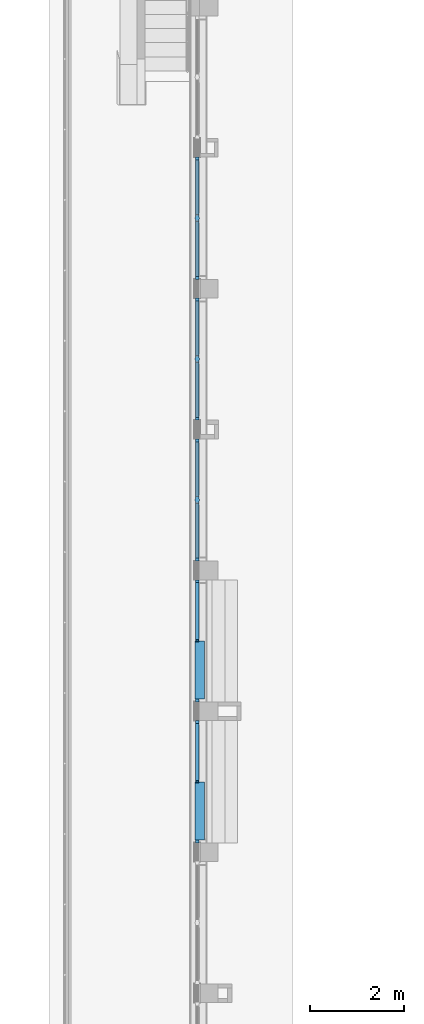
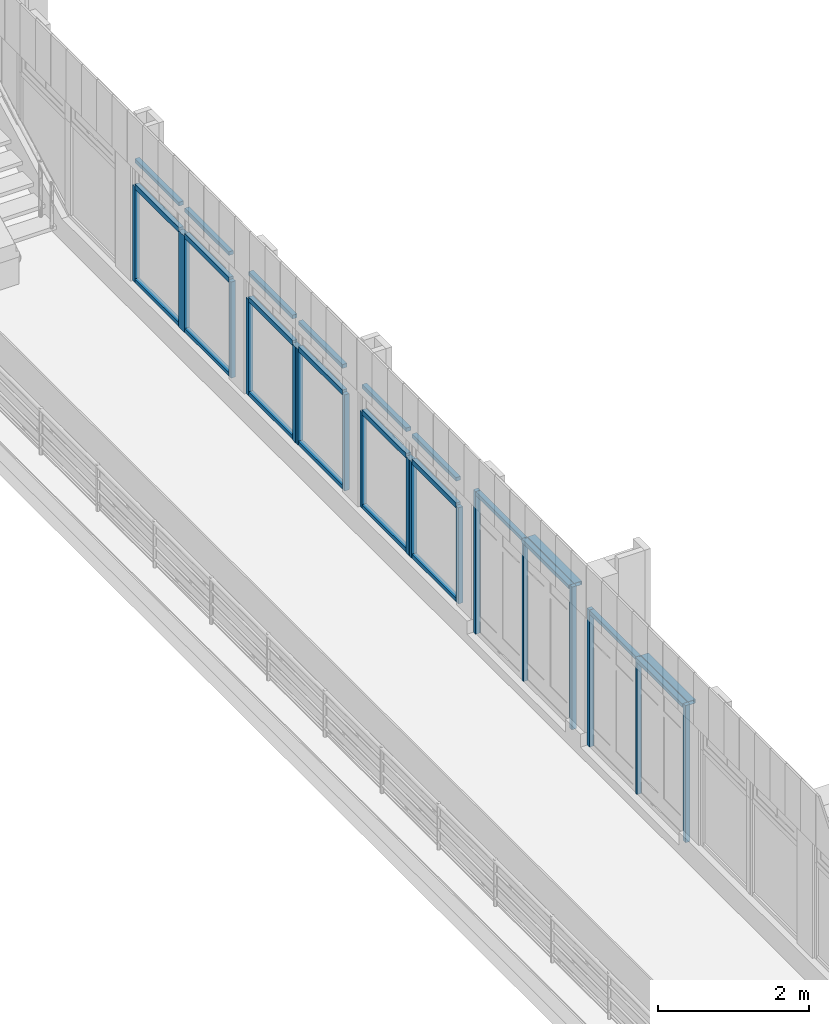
# One storey, part 3 of 16: 37 members, 5 elements without a shape of their own.
"""IFC2X3 building model written with IfcOpenShell, lengths in millimetres."""

from ifc_helpers import new_model, entity, si_unit, converted_unit, derived_unit, direction, frame, frame_2d, origin, place, context, subcontext, project, spatial, polyline, rectangle, outline, extrude, source, transform, mapped, material, type_object, type_shapes, element, aggregate, save


model = new_model("IFC2X3")

# Units and contexts
model_context = context("Model", 3, precision=0.01, world=origin(), true_north=direction((6.123031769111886e-17, 1.0)))
body_context = subcontext(model_context, "Body", "Model", "MODEL_VIEW")
ifc_project = project(units=[si_unit("LENGTHUNIT", "METRE", prefix="MILLI"), si_unit("AREAUNIT", "SQUARE_METRE"), si_unit("VOLUMEUNIT", "CUBIC_METRE"), converted_unit("PLANEANGLEUNIT", "DEGREE", entity("IfcPlaneAngleMeasure", 0.017453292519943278), si_unit("PLANEANGLEUNIT", "RADIAN"), dimensions=[0, 0, 0, 0, 0, 0, 0]), si_unit("MASSUNIT", "GRAM", prefix="KILO"), derived_unit("MASSDENSITYUNIT", [(si_unit("MASSUNIT", "GRAM", prefix="KILO"), 1), (si_unit("LENGTHUNIT", "METRE"), -3)]), derived_unit("IONCONCENTRATIONUNIT", [(si_unit("MASSUNIT", "GRAM", prefix="KILO"), 1), (si_unit("LENGTHUNIT", "METRE"), -3)]), derived_unit("MOMENTOFINERTIAUNIT", [(si_unit("LENGTHUNIT", "METRE"), 4)]), si_unit("TIMEUNIT", "SECOND"), si_unit("FREQUENCYUNIT", "HERTZ"), si_unit("THERMODYNAMICTEMPERATUREUNIT", "DEGREE_CELSIUS"), derived_unit("THERMALTRANSMITTANCEUNIT", [(si_unit("MASSUNIT", "GRAM", prefix="KILO"), 1), (si_unit("THERMODYNAMICTEMPERATUREUNIT", "KELVIN"), -1), (si_unit("TIMEUNIT", "SECOND"), -3)]), derived_unit("THERMALCONDUCTANCEUNIT", [(si_unit("MASSUNIT", "GRAM", prefix="KILO"), 1), (si_unit("THERMODYNAMICTEMPERATUREUNIT", "KELVIN"), -1), (si_unit("TIMEUNIT", "SECOND"), -3), (si_unit("LENGTHUNIT", "METRE"), 1)]), derived_unit("VOLUMETRICFLOWRATEUNIT", [(si_unit("LENGTHUNIT", "METRE", prefix="DECI"), 3), (si_unit("TIMEUNIT", "SECOND"), -1)]), derived_unit("MASSFLOWRATEUNIT", [(si_unit("MASSUNIT", "GRAM", prefix="KILO"), 1), (si_unit("TIMEUNIT", "SECOND"), -1)]), derived_unit("ROTATIONALFREQUENCYUNIT", [(si_unit("TIMEUNIT", "SECOND"), -1)]), si_unit("ELECTRICCURRENTUNIT", "AMPERE"), si_unit("ELECTRICVOLTAGEUNIT", "VOLT"), si_unit("POWERUNIT", "WATT"), si_unit("FORCEUNIT", "NEWTON", prefix="KILO"), si_unit("ILLUMINANCEUNIT", "LUX"), si_unit("LUMINOUSFLUXUNIT", "LUMEN"), si_unit("LUMINOUSINTENSITYUNIT", "CANDELA"), si_unit("ENERGYUNIT", "JOULE"), derived_unit("USERDEFINED", [(si_unit("MASSUNIT", "GRAM", prefix="KILO"), -1), (si_unit("LENGTHUNIT", "METRE"), -2), (si_unit("TIMEUNIT", "SECOND"), 3), (si_unit("LUMINOUSFLUXUNIT", "LUMEN"), 1)]), derived_unit("USERDEFINED", [(si_unit("MASSUNIT", "GRAM", prefix="KILO"), 1), (si_unit("TIMEUNIT", "SECOND"), -3), (si_unit("LENGTHUNIT", "METRE"), 3), (si_unit("ELECTRICCURRENTUNIT", "AMPERE"), -2)]), derived_unit("SOUNDPOWERUNIT", [(si_unit("MASSUNIT", "GRAM", prefix="KILO"), 1), (si_unit("TIMEUNIT", "SECOND"), -3), (si_unit("LENGTHUNIT", "METRE"), 2)]), derived_unit("SOUNDPRESSUREUNIT", [(si_unit("MASSUNIT", "GRAM", prefix="KILO"), 1), (si_unit("LENGTHUNIT", "METRE"), -1), (si_unit("TIMEUNIT", "SECOND"), -2)]), derived_unit("LINEARVELOCITYUNIT", [(si_unit("LENGTHUNIT", "METRE"), 1), (si_unit("TIMEUNIT", "SECOND"), -1)]), si_unit("PRESSUREUNIT", "PASCAL"), derived_unit("USERDEFINED", [(si_unit("MASSUNIT", "GRAM", prefix="KILO"), 1), (si_unit("LENGTHUNIT", "METRE"), -2), (si_unit("TIMEUNIT", "SECOND"), -2)]), derived_unit("LINEARFORCEUNIT", [(si_unit("MASSUNIT", "GRAM", prefix="KILO"), 1), (si_unit("TIMEUNIT", "SECOND"), -2)]), derived_unit("PLANARFORCEUNIT", [(si_unit("MASSUNIT", "GRAM", prefix="KILO"), 1), (si_unit("LENGTHUNIT", "METRE"), -1), (si_unit("TIMEUNIT", "SECOND"), -2)]), derived_unit("SPECIFICHEATCAPACITYUNIT", [(si_unit("THERMODYNAMICTEMPERATUREUNIT", "KELVIN"), -1), (si_unit("LENGTHUNIT", "METRE"), 2), (si_unit("TIMEUNIT", "SECOND"), -2)]), derived_unit("HEATFLUXDENSITYUNIT", [(si_unit("MASSUNIT", "GRAM", prefix="KILO"), 1), (si_unit("TIMEUNIT", "SECOND"), -3)]), derived_unit("HEATINGVALUEUNIT", [(si_unit("LENGTHUNIT", "METRE"), 2), (si_unit("TIMEUNIT", "SECOND"), -2)]), derived_unit("VAPORPERMEABILITYUNIT", [(si_unit("LENGTHUNIT", "METRE"), -1), (si_unit("TIMEUNIT", "SECOND"), 1)]), derived_unit("DYNAMICVISCOSITYUNIT", [(si_unit("MASSUNIT", "GRAM", prefix="KILO"), 1), (si_unit("TIMEUNIT", "SECOND"), -1), (si_unit("LENGTHUNIT", "METRE"), -1)]), derived_unit("THERMALEXPANSIONCOEFFICIENTUNIT", [(si_unit("THERMODYNAMICTEMPERATUREUNIT", "KELVIN"), -1)]), derived_unit("MODULUSOFELASTICITYUNIT", [(si_unit("MASSUNIT", "GRAM", prefix="KILO"), 1), (si_unit("LENGTHUNIT", "METRE"), -1), (si_unit("TIMEUNIT", "SECOND"), -2)]), derived_unit("ISOTHERMALMOISTURECAPACITYUNIT", [(si_unit("MASSUNIT", "GRAM", prefix="KILO"), -1), (si_unit("LENGTHUNIT", "METRE"), 3)]), derived_unit("MOISTUREDIFFUSIVITYUNIT", [(si_unit("TIMEUNIT", "SECOND"), -1), (si_unit("LENGTHUNIT", "METRE"), 2)]), derived_unit("MASSPERLENGTHUNIT", [(si_unit("MASSUNIT", "GRAM", prefix="KILO"), 1), (si_unit("LENGTHUNIT", "METRE"), -1)]), derived_unit("THERMALRESISTANCEUNIT", [(si_unit("MASSUNIT", "GRAM", prefix="KILO"), -1), (si_unit("TIMEUNIT", "SECOND"), 3), (si_unit("THERMODYNAMICTEMPERATUREUNIT", "KELVIN"), 1)]), derived_unit("ACCELERATIONUNIT", [(si_unit("LENGTHUNIT", "METRE"), 1), (si_unit("TIMEUNIT", "SECOND"), -2)]), derived_unit("ANGULARVELOCITYUNIT", [(si_unit("TIMEUNIT", "SECOND"), -1), (si_unit("PLANEANGLEUNIT", "RADIAN"), 1)]), derived_unit("LINEARSTIFFNESSUNIT", [(si_unit("MASSUNIT", "GRAM", prefix="KILO"), 1), (si_unit("TIMEUNIT", "SECOND"), -2)]), derived_unit("WARPINGCONSTANTUNIT", [(si_unit("LENGTHUNIT", "METRE"), 6)]), derived_unit("LINEARMOMENTUNIT", [(si_unit("MASSUNIT", "GRAM", prefix="KILO"), 1), (si_unit("LENGTHUNIT", "METRE"), 1), (si_unit("TIMEUNIT", "SECOND"), -2)]), derived_unit("TORQUEUNIT", [(si_unit("MASSUNIT", "GRAM", prefix="KILO"), 1), (si_unit("LENGTHUNIT", "METRE"), 2), (si_unit("TIMEUNIT", "SECOND"), -2)])], contexts=[model_context])

# Site, building, storey
site_placement = place(None, origin())
site = spatial("IfcSite", under=ifc_project, at=site_placement, Name="Default", CompositionType="ELEMENT")
building_placement = place(site_placement, origin())
building = spatial("IfcBuilding", under=site, at=building_placement, Name="Eesti Rahvusraamatukogu hoone renoveerimise projekteerimistööd", CompositionType="ELEMENT")
storey_placement = place(building_placement, frame((0.0, 0.0, 8250.000000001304)))
storey = spatial("IfcBuildingStorey", under=building, at=storey_placement, Name="3. korrus", CompositionType="ELEMENT", Elevation=8250.000000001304)

# Curtain wall, members
curtain_wall_type_1 = type_object("IfcCurtainWallType", Name="Curtain Wall:A-15", PredefinedType="NOTDEFINED")
curtain_wall_1_placement = place(storey_placement, frame((0.0, 0.0, -8250.000000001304)))
curtain_wall_1 = element("IfcCurtainWall", 1, at=curtain_wall_1_placement, inside=storey, type_object=curtain_wall_type_1, Name="Curtain Wall:A-15", ObjectType="Curtain Wall:A-15")
ifc_material = material(Name="LUMION_dark steel window frames")
member_type_1 = type_object("IfcMemberType", Name="Rectangular Mullion:NEW 60x70mm", PredefinedType="MULLION", material=ifc_material)
shared_shape_1 = source(origin(), body_context, "Body", "SweptSolid", [
    extrude(rectangle(XDim=60.0, YDim=70.0, at=frame_2d((0.0, -3.552713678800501e-15), x_axis=(1.0, 0.0))), frame((-30.0, 0.0, -2300.0), z_axis=(0.0, 0.0, 1.0), x_axis=(-1.0, 0.0, 0.0)), (0.0, 0.0, 1.0), 2300.000000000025),
])
type_shapes(member_type_1, [shared_shape_1])
member_1_placement = place(curtain_wall_1_placement, frame((-33635.0, 30190.0, 8640.000000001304), z_axis=(0.0, 0.0, -1.0), x_axis=(0.0, 1.0, 0.0)))
member_1 = element("IfcMember", 2, at=member_1_placement, type_object=member_type_1, material=ifc_material, Name="Rectangular Mullion:NEW 60x70mm", ObjectType="Rectangular Mullion:NEW 60x70mm", context=body_context, shape_type="MappedRepresentation", body=[
    mapped(shared_shape_1, transform((0.0, 0.0, 0.0), scale=1.0)),
])
member_type_2 = type_object("IfcMemberType", Name="Rectangular Mullion:NEW 60x70mm", PredefinedType="MULLION", material=ifc_material)
shared_shape_2 = source(origin(), body_context, "Body", "SweptSolid", [
    extrude(rectangle(XDim=60.0, YDim=70.0, at=frame_2d((0.0, 3.552713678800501e-15), x_axis=(1.0, 0.0))), frame((-30.0, 0.0, -2300.0), z_axis=(0.0, 0.0, 1.0), x_axis=(-1.0, 0.0, 0.0)), (0.0, 0.0, 1.0), 2300.000000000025),
])
type_shapes(member_type_2, [shared_shape_2])
member_2_placement = place(curtain_wall_1_placement, frame((-33635.0, 27590.0, 10940.000000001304), z_axis=(0.0, 0.0, 1.0), x_axis=(0.0, -1.0, 0.0)))
member_2 = element("IfcMember", 3, at=member_2_placement, type_object=member_type_2, material=ifc_material, Name="Rectangular Mullion:NEW 60x70mm", ObjectType="Rectangular Mullion:NEW 60x70mm", context=body_context, shape_type="MappedRepresentation", body=[
    mapped(shared_shape_2, transform((0.0, 0.0, 0.0), scale=1.0)),
])
member_type_3 = type_object("IfcMemberType", Name="Rectangular Mullion:NEW 60x70mm", PredefinedType="MULLION", material=ifc_material)
shared_shape_3 = source(origin(), body_context, "Body", "SweptSolid", [
    extrude(rectangle(XDim=60.0, YDim=70.0, at=frame_2d((0.0, -3.552713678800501e-15), x_axis=(1.0, 0.0))), frame((-30.0, 0.0, -1240.0), z_axis=(0.0, 0.0, 1.0), x_axis=(-1.0, 0.0, 0.0)), (0.0, 0.0, 1.0), 1239.9999999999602),
])
type_shapes(member_type_3, [shared_shape_3])
member_3_placement = place(curtain_wall_1_placement, frame((-33635.0, 30130.0, 10940.000000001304), z_axis=(0.0, 1.0, 0.0), x_axis=(0.0, 0.0, 1.0)))
member_3 = element("IfcMember", 4, at=member_3_placement, type_object=member_type_3, material=ifc_material, Name="Rectangular Mullion:NEW 60x70mm", ObjectType="Rectangular Mullion:NEW 60x70mm", context=body_context, shape_type="MappedRepresentation", body=[
    mapped(shared_shape_3, transform((0.0, 0.0, 0.0), scale=1.0)),
])

# Curtain wall, member
curtain_wall_2_placement = place(storey_placement, frame((0.0, 0.0, -8250.000000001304)))
curtain_wall_2 = element("IfcCurtainWall", 5, at=curtain_wall_2_placement, inside=storey, type_object=curtain_wall_type_1, Name="Curtain Wall:A-15", ObjectType="Curtain Wall:A-15")
member_4_placement = place(curtain_wall_2_placement, frame((-33635.0, 27130.0, 10850.000000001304), z_axis=(0.0, 1.0, 0.0), x_axis=(0.0, 0.0, 1.0)))
member_4 = element("IfcMember", 6, at=member_4_placement, type_object=member_type_3, material=ifc_material, Name="Rectangular Mullion:NEW 60x70mm", ObjectType="Rectangular Mullion:NEW 60x70mm", context=body_context, shape_type="MappedRepresentation", body=[
    mapped(shared_shape_3, transform((0.0, 0.0, 0.0), scale=1.0)),
])

# Member
member_type_4 = type_object("IfcMemberType", Name="Rectangular Mullion:NEW 40x70mm", PredefinedType="MULLION", material=ifc_material)
shared_shape_4 = source(origin(), body_context, "Body", "SweptSolid", [
    extrude(rectangle(XDim=40.0, YDim=70.0, at=frame_2d((0.0, 3.552713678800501e-15), x_axis=(1.0, 0.0))), frame((0.0, 0.0, -2240.0), z_axis=(0.0, 0.0, 1.0), x_axis=(-1.0, 0.0, 0.0)), (0.0, 0.0, 1.0), 2240.000000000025),
])
type_shapes(member_type_4, [shared_shape_4])
member_5_placement = place(curtain_wall_1_placement, frame((-33635.0, 28890.0, 8640.000000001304), z_axis=(0.0, 0.0, -1.0), x_axis=(0.0, 1.0, 0.0)))
member_5 = element("IfcMember", 7, at=member_5_placement, type_object=member_type_4, material=ifc_material, Name="Rectangular Mullion:NEW 40x70mm", ObjectType="Rectangular Mullion:NEW 40x70mm", context=body_context, shape_type="MappedRepresentation", body=[
    mapped(shared_shape_4, transform((0.0, 0.0, 0.0), scale=1.0)),
])

member_type_5 = type_object("IfcMemberType", Name="Rectangular Mullion:Schüco vert. mullion, cover cap 45mm, profiil 150mm", PredefinedType="MULLION", material=ifc_material)
shared_shape_5 = source(origin(), body_context, "Body", "SweptSolid", [
    extrude(outline(polyline([(-31.307692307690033, -120.93846153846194), (28.69230769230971, -120.93846153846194), (28.69230769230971, -7.938461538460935), (15.692307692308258, -7.938461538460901), (15.692307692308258, -10.938461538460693), (24.692307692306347, -10.938461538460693), (24.692307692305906, -116.93846153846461), (-27.307692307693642, -116.93846153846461), (-27.307692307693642, -10.93846153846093), (-2.307692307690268, -10.938461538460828), (-2.307692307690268, 35.061538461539), (-27.30769230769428, 35.061538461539), (-27.30769230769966, 76.06153846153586), (24.69230769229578, 76.06153846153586), (24.69230769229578, 35.06153846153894), (-0.3076923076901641, 35.0615384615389), (-0.3076923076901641, -10.938461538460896), (14.692307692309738, -10.938461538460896), (14.692307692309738, 30.161538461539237), (28.692307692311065, 30.161538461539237), (28.692307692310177, 80.0615384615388), (-31.30769230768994, 80.0615384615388), (-31.30769230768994, 30.161538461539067), (-17.30769230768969, 30.161538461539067), (-17.307692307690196, -7.938461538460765), (-31.307692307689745, -7.938461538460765), (-31.307692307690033, -120.93846153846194)])), frame((-31.307692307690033, 30.061538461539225, -1240.0), z_axis=(0.0, 0.0, 1.0), x_axis=(-1.0, 0.0, 0.0)), (0.0, 0.0, 1.0), 1239.9999999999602),
])
type_shapes(member_type_5, [shared_shape_5])
member_6_placement = place(curtain_wall_1_placement, frame((-33635.0, 28890.0, 10940.000000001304), z_axis=(0.0, 1.0, 0.0), x_axis=(0.0, 0.0, 1.0)))
member_6 = element("IfcMember", 8, at=member_6_placement, type_object=member_type_5, material=ifc_material, Name="Rectangular Mullion:Schüco vert. mullion, cover cap 45mm, profiil 150mm", ObjectType="Rectangular Mullion:Schüco vert. mullion, cover cap 45mm, profiil 150mm", context=body_context, shape_type="MappedRepresentation", body=[
    mapped(shared_shape_5, transform((0.0, 0.0, 0.0), scale=1.0)),
])

aggregate(curtain_wall_1, [member_1, member_2, member_3, member_5, member_6])

member_7_placement = place(curtain_wall_2_placement, frame((-33635.0, 25890.0, 10850.000000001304), z_axis=(0.0, 1.0, 0.0), x_axis=(0.0, 0.0, 1.0)))
member_7 = element("IfcMember", 9, at=member_7_placement, type_object=member_type_5, material=ifc_material, Name="Rectangular Mullion:Schüco vert. mullion, cover cap 45mm, profiil 150mm", ObjectType="Rectangular Mullion:Schüco vert. mullion, cover cap 45mm, profiil 150mm", context=body_context, shape_type="MappedRepresentation", body=[
    mapped(shared_shape_5, transform((0.0, 0.0, 0.0), scale=1.0)),
])

member_type_6 = type_object("IfcMemberType", Name="Rectangular Mullion:NEW 60x70mm", PredefinedType="MULLION", material=ifc_material)
shared_shape_6 = source(origin(), body_context, "Body", "SweptSolid", [
    extrude(rectangle(XDim=60.0, YDim=70.0, at=frame_2d((0.0, 3.552713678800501e-15), x_axis=(1.0, 0.0))), frame((-30.0, 0.0, -2210.0), z_axis=(0.0, 0.0, 1.0), x_axis=(-1.0, 0.0, 0.0)), (0.0, 0.0, 1.0), 2210.0),
])
type_shapes(member_type_6, [shared_shape_6])
member_8_placement = place(curtain_wall_2_placement, frame((-33635.0, 27190.0, 8640.000000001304), z_axis=(0.0, 0.0, -1.0), x_axis=(0.0, 1.0, 0.0)))
member_8 = element("IfcMember", 10, at=member_8_placement, type_object=member_type_6, material=ifc_material, Name="Rectangular Mullion:NEW 60x70mm", ObjectType="Rectangular Mullion:NEW 60x70mm", context=body_context, shape_type="MappedRepresentation", body=[
    mapped(shared_shape_6, transform((0.0, 0.0, 0.0), scale=1.0)),
])

member_type_7 = type_object("IfcMemberType", Name="Rectangular Mullion:NEW 60x70mm", PredefinedType="MULLION", material=ifc_material)
shared_shape_7 = source(origin(), body_context, "Body", "SweptSolid", [
    extrude(rectangle(XDim=60.0, YDim=70.0, at=frame_2d((0.0, -3.552713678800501e-15), x_axis=(1.0, 0.0))), frame((-30.0, 0.0, -2210.0), z_axis=(0.0, 0.0, 1.0), x_axis=(-1.0, 0.0, 0.0)), (0.0, 0.0, 1.0), 2210.0),
])
type_shapes(member_type_7, [shared_shape_7])
member_9_placement = place(curtain_wall_2_placement, frame((-33635.0, 24590.0, 10850.000000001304), z_axis=(0.0, 0.0, 1.0), x_axis=(0.0, -1.0, 0.0)))
member_9 = element("IfcMember", 11, at=member_9_placement, type_object=member_type_7, material=ifc_material, Name="Rectangular Mullion:NEW 60x70mm", ObjectType="Rectangular Mullion:NEW 60x70mm", context=body_context, shape_type="MappedRepresentation", body=[
    mapped(shared_shape_7, transform((0.0, 0.0, 0.0), scale=1.0)),
])

member_type_8 = type_object("IfcMemberType", Name="Rectangular Mullion:NEW 40x70mm", PredefinedType="MULLION", material=ifc_material)
shared_shape_8 = source(origin(), body_context, "Body", "SweptSolid", [
    extrude(rectangle(XDim=40.0, YDim=70.0, at=frame_2d((0.0, 3.552713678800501e-15), x_axis=(1.0, 0.0))), frame((0.0, 0.0, -2150.0), z_axis=(0.0, 0.0, 1.0), x_axis=(-1.0, 0.0, 0.0)), (0.0, 0.0, 1.0), 2150.0),
])
type_shapes(member_type_8, [shared_shape_8])
member_10_placement = place(curtain_wall_2_placement, frame((-33635.0, 25890.0, 8640.000000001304), z_axis=(0.0, 0.0, -1.0), x_axis=(0.0, 1.0, 0.0)))
member_10 = element("IfcMember", 12, at=member_10_placement, type_object=member_type_8, material=ifc_material, Name="Rectangular Mullion:NEW 40x70mm", ObjectType="Rectangular Mullion:NEW 40x70mm", context=body_context, shape_type="MappedRepresentation", body=[
    mapped(shared_shape_8, transform((0.0, 0.0, 0.0), scale=1.0)),
])

aggregate(curtain_wall_2, [member_8, member_9, member_4, member_10, member_7])

# Curtain wall, members
curtain_wall_type_2 = type_object("IfcCurtainWallType", Name="Curtain Wall:A-16", PredefinedType="NOTDEFINED")
curtain_wall_3_placement = place(storey_placement, frame((0.0, 0.0, -8250.000000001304)))
curtain_wall_3 = element("IfcCurtainWall", 13, at=curtain_wall_3_placement, inside=storey, type_object=curtain_wall_type_2, Name="Curtain Wall:A-16", ObjectType="Curtain Wall:A-16")
member_type_9 = type_object("IfcMemberType", Name="Rectangular Mullion:NEW 80x70mm", PredefinedType="MULLION", material=ifc_material)
shared_shape_9 = source(origin(), body_context, "Body", "SweptSolid", [
    extrude(rectangle(XDim=80.0, YDim=70.0, at=frame_2d((0.0, -3.552713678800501e-15), x_axis=(1.0, 0.0))), frame((0.0, 0.0, -1165.0), z_axis=(0.0, 0.0, 1.0), x_axis=(-1.0, 0.0, 0.0)), (0.0, 0.0, 1.0), 1165.000000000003),
])
type_shapes(member_type_9, [shared_shape_9])
member_11_placement = place(curtain_wall_3_placement, frame((-33635.0, 33130.0, 10400.000000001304), z_axis=(0.0, 1.0, 0.0), x_axis=(0.0, 0.0, 1.0)))
member_11 = element("IfcMember", 14, at=member_11_placement, type_object=member_type_9, material=ifc_material, Name="Rectangular Mullion:NEW 80x70mm", ObjectType="Rectangular Mullion:NEW 80x70mm", context=body_context, shape_type="MappedRepresentation", body=[
    mapped(shared_shape_9, transform((0.0, 0.0, 0.0), scale=1.0)),
])
member_12_placement = place(curtain_wall_3_placement, frame((-33635.0, 31815.0, 10400.000000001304), z_axis=(0.0, 1.0, 0.0), x_axis=(0.0, 0.0, 1.0)))
member_12 = element("IfcMember", 15, at=member_12_placement, type_object=member_type_9, material=ifc_material, Name="Rectangular Mullion:NEW 80x70mm", ObjectType="Rectangular Mullion:NEW 80x70mm", context=body_context, shape_type="MappedRepresentation", body=[
    mapped(shared_shape_9, transform((0.0, 0.0, 0.0), scale=1.0)),
])

curtain_wall_4_placement = place(storey_placement, frame((0.0, 0.0, -8250.000000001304)))
curtain_wall_4 = element("IfcCurtainWall", 16, at=curtain_wall_4_placement, inside=storey, type_object=curtain_wall_type_2, Name="Curtain Wall:A-16", ObjectType="Curtain Wall:A-16")
member_13_placement = place(curtain_wall_4_placement, frame((-33635.0, 36130.0, 10400.000000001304), z_axis=(0.0, 1.0, 0.0), x_axis=(0.0, 0.0, 1.0)))
member_13 = element("IfcMember", 17, at=member_13_placement, type_object=member_type_9, material=ifc_material, Name="Rectangular Mullion:NEW 80x70mm", ObjectType="Rectangular Mullion:NEW 80x70mm", context=body_context, shape_type="MappedRepresentation", body=[
    mapped(shared_shape_9, transform((0.0, 0.0, 0.0), scale=1.0)),
])
member_14_placement = place(curtain_wall_4_placement, frame((-33635.0, 34815.0, 10400.000000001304), z_axis=(0.0, 1.0, 0.0), x_axis=(0.0, 0.0, 1.0)))
member_14 = element("IfcMember", 18, at=member_14_placement, type_object=member_type_9, material=ifc_material, Name="Rectangular Mullion:NEW 80x70mm", ObjectType="Rectangular Mullion:NEW 80x70mm", context=body_context, shape_type="MappedRepresentation", body=[
    mapped(shared_shape_9, transform((0.0, 0.0, 0.0), scale=1.0)),
])

curtain_wall_5_placement = place(storey_placement, frame((0.0, 0.0, -8250.000000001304)))
curtain_wall_5 = element("IfcCurtainWall", 19, at=curtain_wall_5_placement, inside=storey, type_object=curtain_wall_type_2, Name="Curtain Wall:A-16", ObjectType="Curtain Wall:A-16")
member_15_placement = place(curtain_wall_5_placement, frame((-33635.0, 39130.0, 10400.000000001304), z_axis=(0.0, 1.0, 0.0), x_axis=(0.0, 0.0, 1.0)))
member_15 = element("IfcMember", 20, at=member_15_placement, type_object=member_type_9, material=ifc_material, Name="Rectangular Mullion:NEW 80x70mm", ObjectType="Rectangular Mullion:NEW 80x70mm", context=body_context, shape_type="MappedRepresentation", body=[
    mapped(shared_shape_9, transform((0.0, 0.0, 0.0), scale=1.0)),
])
member_16_placement = place(curtain_wall_5_placement, frame((-33635.0, 37815.0, 10400.000000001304), z_axis=(0.0, 1.0, 0.0), x_axis=(0.0, 0.0, 1.0)))
member_16 = element("IfcMember", 21, at=member_16_placement, type_object=member_type_9, material=ifc_material, Name="Rectangular Mullion:NEW 80x70mm", ObjectType="Rectangular Mullion:NEW 80x70mm", context=body_context, shape_type="MappedRepresentation", body=[
    mapped(shared_shape_9, transform((0.0, 0.0, 0.0), scale=1.0)),
])

# Member
member_type_10 = type_object("IfcMemberType", Name="Rectangular Mullion:NEW 60x70mm", PredefinedType="MULLION", material=ifc_material)
shared_shape_10 = source(origin(), body_context, "Body", "SweptSolid", [
    extrude(rectangle(XDim=60.0, YDim=70.0, at=frame_2d((0.0, 3.552713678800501e-15), x_axis=(1.0, 0.0))), frame((-30.0, 0.0, -1550.0), z_axis=(0.0, 0.0, 1.0), x_axis=(-1.0, 0.0, 0.0)), (0.0, 0.0, 1.0), 1550.000000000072),
])
type_shapes(member_type_10, [shared_shape_10])
member_17_placement = place(curtain_wall_3_placement, frame((-33635.0, 30590.0, 10400.000000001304), z_axis=(0.0, 0.0, 1.0), x_axis=(0.0, -1.0, 0.0)))
member_17 = element("IfcMember", 22, at=member_17_placement, type_object=member_type_10, material=ifc_material, Name="Rectangular Mullion:NEW 60x70mm", ObjectType="Rectangular Mullion:NEW 60x70mm", context=body_context, shape_type="MappedRepresentation", body=[
    mapped(shared_shape_10, transform((0.0, 0.0, 0.0), scale=1.0)),
])

member_18_placement = place(curtain_wall_4_placement, frame((-33635.0, 33590.0, 10400.000000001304), z_axis=(0.0, 0.0, 1.0), x_axis=(0.0, -1.0, 0.0)))
member_18 = element("IfcMember", 23, at=member_18_placement, type_object=member_type_10, material=ifc_material, Name="Rectangular Mullion:NEW 60x70mm", ObjectType="Rectangular Mullion:NEW 60x70mm", context=body_context, shape_type="MappedRepresentation", body=[
    mapped(shared_shape_10, transform((0.0, 0.0, 0.0), scale=1.0)),
])

member_19_placement = place(curtain_wall_5_placement, frame((-33635.0, 36590.0, 10400.000000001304), z_axis=(0.0, 0.0, 1.0), x_axis=(0.0, -1.0, 0.0)))
member_19 = element("IfcMember", 24, at=member_19_placement, type_object=member_type_10, material=ifc_material, Name="Rectangular Mullion:NEW 60x70mm", ObjectType="Rectangular Mullion:NEW 60x70mm", context=body_context, shape_type="MappedRepresentation", body=[
    mapped(shared_shape_10, transform((0.0, 0.0, 0.0), scale=1.0)),
])

member_type_11 = type_object("IfcMemberType", Name="Rectangular Mullion:NEW 60x70mm", PredefinedType="MULLION", material=ifc_material)
shared_shape_11 = source(origin(), body_context, "Body", "SweptSolid", [
    extrude(rectangle(XDim=60.0, YDim=70.0, at=frame_2d((0.0, 3.552713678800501e-15), x_axis=(1.0, 0.0))), frame((-30.0, 0.0, -1165.0), z_axis=(0.0, 0.0, 1.0), x_axis=(-1.0, 0.0, 0.0)), (0.0, 0.0, 1.0), 1164.9999999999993),
])
type_shapes(member_type_11, [shared_shape_11])
member_20_placement = place(curtain_wall_3_placement, frame((-33635.0, 31815.0, 10850.000000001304), z_axis=(0.0, 1.0, 0.0), x_axis=(0.0, 0.0, 1.0)))
member_20 = element("IfcMember", 25, at=member_20_placement, type_object=member_type_11, material=ifc_material, Name="Rectangular Mullion:NEW 60x70mm", ObjectType="Rectangular Mullion:NEW 60x70mm", context=body_context, shape_type="MappedRepresentation", body=[
    mapped(shared_shape_11, transform((0.0, 0.0, 0.0), scale=1.0)),
])

member_21_placement = place(curtain_wall_3_placement, frame((-33635.0, 33130.0, 10850.000000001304), z_axis=(0.0, 1.0, 0.0), x_axis=(0.0, 0.0, 1.0)))
member_21 = element("IfcMember", 26, at=member_21_placement, type_object=member_type_11, material=ifc_material, Name="Rectangular Mullion:NEW 60x70mm", ObjectType="Rectangular Mullion:NEW 60x70mm", context=body_context, shape_type="MappedRepresentation", body=[
    mapped(shared_shape_11, transform((0.0, 0.0, 0.0), scale=1.0)),
])

member_22_placement = place(curtain_wall_4_placement, frame((-33635.0, 34815.0, 10850.000000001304), z_axis=(0.0, 1.0, 0.0), x_axis=(0.0, 0.0, 1.0)))
member_22 = element("IfcMember", 27, at=member_22_placement, type_object=member_type_11, material=ifc_material, Name="Rectangular Mullion:NEW 60x70mm", ObjectType="Rectangular Mullion:NEW 60x70mm", context=body_context, shape_type="MappedRepresentation", body=[
    mapped(shared_shape_11, transform((0.0, 0.0, 0.0), scale=1.0)),
])

member_23_placement = place(curtain_wall_4_placement, frame((-33635.0, 36130.0, 10850.000000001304), z_axis=(0.0, 1.0, 0.0), x_axis=(0.0, 0.0, 1.0)))
member_23 = element("IfcMember", 28, at=member_23_placement, type_object=member_type_11, material=ifc_material, Name="Rectangular Mullion:NEW 60x70mm", ObjectType="Rectangular Mullion:NEW 60x70mm", context=body_context, shape_type="MappedRepresentation", body=[
    mapped(shared_shape_11, transform((0.0, 0.0, 0.0), scale=1.0)),
])

member_24_placement = place(curtain_wall_5_placement, frame((-33635.0, 37815.0, 10850.000000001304), z_axis=(0.0, 1.0, 0.0), x_axis=(0.0, 0.0, 1.0)))
member_24 = element("IfcMember", 29, at=member_24_placement, type_object=member_type_11, material=ifc_material, Name="Rectangular Mullion:NEW 60x70mm", ObjectType="Rectangular Mullion:NEW 60x70mm", context=body_context, shape_type="MappedRepresentation", body=[
    mapped(shared_shape_11, transform((0.0, 0.0, 0.0), scale=1.0)),
])

member_25_placement = place(curtain_wall_5_placement, frame((-33635.0, 39130.0, 10850.000000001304), z_axis=(0.0, 1.0, 0.0), x_axis=(0.0, 0.0, 1.0)))
member_25 = element("IfcMember", 30, at=member_25_placement, type_object=member_type_11, material=ifc_material, Name="Rectangular Mullion:NEW 60x70mm", ObjectType="Rectangular Mullion:NEW 60x70mm", context=body_context, shape_type="MappedRepresentation", body=[
    mapped(shared_shape_11, transform((0.0, 0.0, 0.0), scale=1.0)),
])

member_type_12 = type_object("IfcMemberType", Name="Rectangular Mullion:NEW 60x70mm", PredefinedType="MULLION", material=ifc_material)
shared_shape_12 = source(origin(), body_context, "Body", "SweptSolid", [
    extrude(rectangle(XDim=60.0, YDim=70.0, at=frame_2d((0.0, -3.552713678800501e-15), x_axis=(1.0, 0.0))), frame((-30.0, 0.0, -1550.0), z_axis=(0.0, 0.0, 1.0), x_axis=(-1.0, 0.0, 0.0)), (0.0, 0.0, 1.0), 1550.000000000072),
])
type_shapes(member_type_12, [shared_shape_12])
member_26_placement = place(curtain_wall_3_placement, frame((-33635.0, 33190.0, 8850.000000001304), z_axis=(0.0, 0.0, -1.0), x_axis=(0.0, 1.0, 0.0)))
member_26 = element("IfcMember", 31, at=member_26_placement, type_object=member_type_12, material=ifc_material, Name="Rectangular Mullion:NEW 60x70mm", ObjectType="Rectangular Mullion:NEW 60x70mm", context=body_context, shape_type="MappedRepresentation", body=[
    mapped(shared_shape_12, transform((0.0, 0.0, 0.0), scale=1.0)),
])

member_27_placement = place(curtain_wall_4_placement, frame((-33635.0, 36190.0, 8850.000000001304), z_axis=(0.0, 0.0, -1.0), x_axis=(0.0, 1.0, 0.0)))
member_27 = element("IfcMember", 32, at=member_27_placement, type_object=member_type_12, material=ifc_material, Name="Rectangular Mullion:NEW 60x70mm", ObjectType="Rectangular Mullion:NEW 60x70mm", context=body_context, shape_type="MappedRepresentation", body=[
    mapped(shared_shape_12, transform((0.0, 0.0, 0.0), scale=1.0)),
])

member_28_placement = place(curtain_wall_5_placement, frame((-33635.0, 39190.0, 8850.000000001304), z_axis=(0.0, 0.0, -1.0), x_axis=(0.0, 1.0, 0.0)))
member_28 = element("IfcMember", 33, at=member_28_placement, type_object=member_type_12, material=ifc_material, Name="Rectangular Mullion:NEW 60x70mm", ObjectType="Rectangular Mullion:NEW 60x70mm", context=body_context, shape_type="MappedRepresentation", body=[
    mapped(shared_shape_12, transform((0.0, 0.0, 0.0), scale=1.0)),
])

member_type_13 = type_object("IfcMemberType", Name="Rectangular Mullion:NEW 60x70mm", PredefinedType="MULLION", material=ifc_material)
shared_shape_13 = source(origin(), body_context, "Body", "SweptSolid", [
    extrude(rectangle(XDim=60.0, YDim=70.0, at=frame_2d((0.0, 3.552713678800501e-15), x_axis=(1.0, 0.0))), frame((-30.0, 0.0, -1165.0), z_axis=(0.0, 0.0, 1.0), x_axis=(-1.0, 0.0, 0.0)), (0.0, 0.0, 1.0), 1165.0000000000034),
])
type_shapes(member_type_13, [shared_shape_13])
member_29_placement = place(curtain_wall_3_placement, frame((-33635.0, 31965.0, 8850.000000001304), z_axis=(0.0, -1.0, 0.0), x_axis=(0.0, 0.0, -1.0)))
member_29 = element("IfcMember", 34, at=member_29_placement, type_object=member_type_13, material=ifc_material, Name="Rectangular Mullion:NEW 60x70mm", ObjectType="Rectangular Mullion:NEW 60x70mm", context=body_context, shape_type="MappedRepresentation", body=[
    mapped(shared_shape_13, transform((0.0, 0.0, 0.0), scale=1.0)),
])

member_30_placement = place(curtain_wall_3_placement, frame((-33635.0, 30650.0, 8850.000000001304), z_axis=(0.0, -1.0, 0.0), x_axis=(0.0, 0.0, -1.0)))
member_30 = element("IfcMember", 35, at=member_30_placement, type_object=member_type_13, material=ifc_material, Name="Rectangular Mullion:NEW 60x70mm", ObjectType="Rectangular Mullion:NEW 60x70mm", context=body_context, shape_type="MappedRepresentation", body=[
    mapped(shared_shape_13, transform((0.0, 0.0, 0.0), scale=1.0)),
])

member_31_placement = place(curtain_wall_4_placement, frame((-33635.0, 34965.0, 8850.000000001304), z_axis=(0.0, -1.0, 0.0), x_axis=(0.0, 0.0, -1.0)))
member_31 = element("IfcMember", 36, at=member_31_placement, type_object=member_type_13, material=ifc_material, Name="Rectangular Mullion:NEW 60x70mm", ObjectType="Rectangular Mullion:NEW 60x70mm", context=body_context, shape_type="MappedRepresentation", body=[
    mapped(shared_shape_13, transform((0.0, 0.0, 0.0), scale=1.0)),
])

member_32_placement = place(curtain_wall_4_placement, frame((-33635.0, 33650.0, 8850.000000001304), z_axis=(0.0, -1.0, 0.0), x_axis=(0.0, 0.0, -1.0)))
member_32 = element("IfcMember", 37, at=member_32_placement, type_object=member_type_13, material=ifc_material, Name="Rectangular Mullion:NEW 60x70mm", ObjectType="Rectangular Mullion:NEW 60x70mm", context=body_context, shape_type="MappedRepresentation", body=[
    mapped(shared_shape_13, transform((0.0, 0.0, 0.0), scale=1.0)),
])

member_33_placement = place(curtain_wall_5_placement, frame((-33635.0, 37965.0, 8850.000000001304), z_axis=(0.0, -1.0, 0.0), x_axis=(0.0, 0.0, -1.0)))
member_33 = element("IfcMember", 38, at=member_33_placement, type_object=member_type_13, material=ifc_material, Name="Rectangular Mullion:NEW 60x70mm", ObjectType="Rectangular Mullion:NEW 60x70mm", context=body_context, shape_type="MappedRepresentation", body=[
    mapped(shared_shape_13, transform((0.0, 0.0, 0.0), scale=1.0)),
])

member_34_placement = place(curtain_wall_5_placement, frame((-33635.0, 36650.0, 8850.000000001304), z_axis=(0.0, -1.0, 0.0), x_axis=(0.0, 0.0, -1.0)))
member_34 = element("IfcMember", 39, at=member_34_placement, type_object=member_type_13, material=ifc_material, Name="Rectangular Mullion:NEW 60x70mm", ObjectType="Rectangular Mullion:NEW 60x70mm", context=body_context, shape_type="MappedRepresentation", body=[
    mapped(shared_shape_13, transform((0.0, 0.0, 0.0), scale=1.0)),
])

member_type_14 = type_object("IfcMemberType", Name="Rectangular Mullion:NEW 150x90mm", PredefinedType="MULLION", material=ifc_material)
shared_shape_14 = source(origin(), body_context, "Body", "SweptSolid", [
    extrude(outline(polyline([(40.0, -20.0), (45.0, -20.0), (45.0, 20.0), (40.0, 20.0), (40.0, 75.0), (-40.0, 75.0), (-40.0, 20.0), (-45.0, 20.0), (-45.0, -20.0), (-40.0, -20.0), (-40.0, -75.0), (40.0, -75.0), (40.0, -20.0)])), frame((0.0, 0.0, -1550.0), z_axis=(0.0, 0.0, 1.0), x_axis=(0.0, -1.0, 0.0)), (0.0, 0.0, 1.0), 1550.000000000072),
])
type_shapes(member_type_14, [shared_shape_14])
member_35_placement = place(curtain_wall_3_placement, frame((-33635.0, 31890.0, 8850.000000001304), z_axis=(0.0, 0.0, -1.0), x_axis=(0.0, 1.0, 0.0)))
member_35 = element("IfcMember", 40, at=member_35_placement, type_object=member_type_14, material=ifc_material, Name="Rectangular Mullion:NEW 150x90mm", ObjectType="Rectangular Mullion:NEW 150x90mm", context=body_context, shape_type="MappedRepresentation", body=[
    mapped(shared_shape_14, transform((0.0, 0.0, 0.0), scale=1.0)),
])

aggregate(curtain_wall_3, [member_11, member_12, member_17, member_20, member_21, member_26, member_29, member_30, member_35])

member_36_placement = place(curtain_wall_4_placement, frame((-33635.0, 34890.0, 8850.000000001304), z_axis=(0.0, 0.0, -1.0), x_axis=(0.0, 1.0, 0.0)))
member_36 = element("IfcMember", 41, at=member_36_placement, type_object=member_type_14, material=ifc_material, Name="Rectangular Mullion:NEW 150x90mm", ObjectType="Rectangular Mullion:NEW 150x90mm", context=body_context, shape_type="MappedRepresentation", body=[
    mapped(shared_shape_14, transform((0.0, 0.0, 0.0), scale=1.0)),
])

aggregate(curtain_wall_4, [member_13, member_14, member_18, member_22, member_23, member_27, member_31, member_32, member_36])

member_37_placement = place(curtain_wall_5_placement, frame((-33635.0, 37890.0, 8850.000000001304), z_axis=(0.0, 0.0, -1.0), x_axis=(0.0, 1.0, 0.0)))
member_37 = element("IfcMember", 42, at=member_37_placement, type_object=member_type_14, material=ifc_material, Name="Rectangular Mullion:NEW 150x90mm", ObjectType="Rectangular Mullion:NEW 150x90mm", context=body_context, shape_type="MappedRepresentation", body=[
    mapped(shared_shape_14, transform((0.0, 0.0, 0.0), scale=1.0)),
])

aggregate(curtain_wall_5, [member_15, member_16, member_19, member_24, member_25, member_28, member_33, member_34, member_37])

save(model, "model.ifc")
